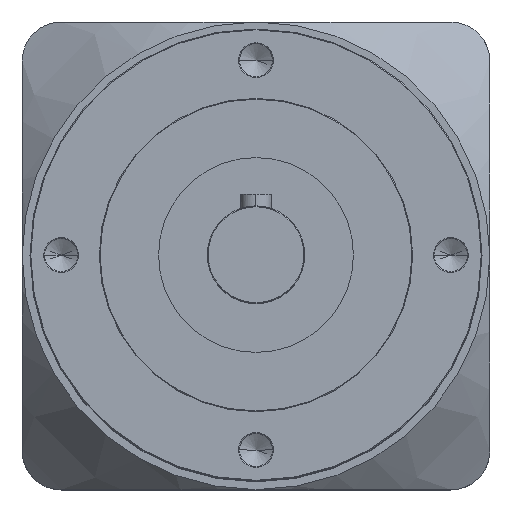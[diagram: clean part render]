
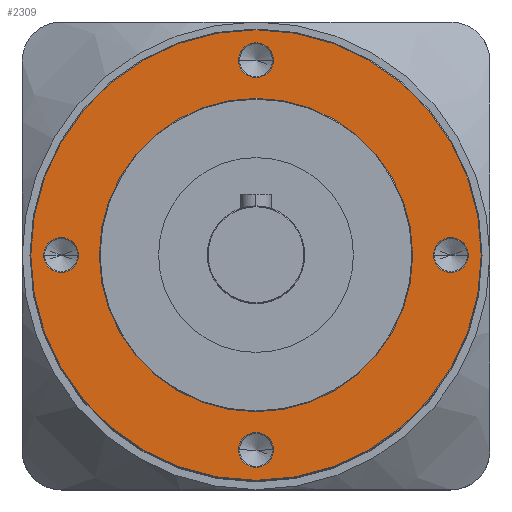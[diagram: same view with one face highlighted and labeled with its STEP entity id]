
A CAD part, top view. The second image highlights one B-rep face of the part: STEP entity #2309.
In plain terms, the highlighted planar face has unit normal (0, 0, 1).
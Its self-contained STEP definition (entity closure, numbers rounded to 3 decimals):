
#37 = VERTEX_POINT ( 'NONE', #2951 ) ;
#71 = AXIS2_PLACEMENT_3D ( 'NONE', #3185, #1694, #202 ) ;
#135 = CARTESIAN_POINT ( 'NONE',  ( 90.126, -22.151, 337.621 ) ) ;
#158 = EDGE_CURVE ( 'NONE', #1888, #1999, #2864, .T. ) ;
#169 = FACE_BOUND ( 'NONE', #2466, .T. ) ;
#202 = DIRECTION ( 'NONE',  ( 1., 0., 0. ) ) ;
#240 = DIRECTION ( 'NONE',  ( 0., 0., -1. ) ) ;
#265 = EDGE_CURVE ( 'NONE', #1846, #3034, #537, .T. ) ;
#355 = CARTESIAN_POINT ( 'NONE',  ( 40.126, -72.151, 337.621 ) ) ;
#383 = DIRECTION ( 'NONE',  ( 1., 0., 0. ) ) ;
#441 = DIRECTION ( 'NONE',  ( 0., 0., -1. ) ) ;
#480 = CIRCLE ( 'NONE', #1873, 40.2 ) ;
#504 = VERTEX_POINT ( 'NONE', #1754 ) ;
#520 = VERTEX_POINT ( 'NONE', #1266 ) ;
#537 = CIRCLE ( 'NONE', #71, 4.45 ) ;
#591 = EDGE_CURVE ( 'NONE', #1152, #1261, #1011, .T. ) ;
#602 = DIRECTION ( 'NONE',  ( 1., 0., 0. ) ) ;
#619 = EDGE_LOOP ( 'NONE', ( #2527, #1376 ) ) ;
#626 = AXIS2_PLACEMENT_3D ( 'NONE', #355, #2092, #602 ) ;
#637 = DIRECTION ( 'NONE',  ( 0., 0., -1. ) ) ;
#644 = AXIS2_PLACEMENT_3D ( 'NONE', #929, #2660, #1174 ) ;
#670 = FACE_BOUND ( 'NONE', #2044, .T. ) ;
#693 = ORIENTED_EDGE ( 'NONE', *, *, #1036, .T. ) ;
#716 = DIRECTION ( 'NONE',  ( 0., 0., -1. ) ) ;
#750 = DIRECTION ( 'NONE',  ( 0., 0., 1. ) ) ;
#780 = VERTEX_POINT ( 'NONE', #1334 ) ;
#787 = ORIENTED_EDGE ( 'NONE', *, *, #834, .T. ) ;
#788 = CARTESIAN_POINT ( 'NONE',  ( -17.674, -22.151, 337.621 ) ) ;
#829 = VERTEX_POINT ( 'NONE', #1647 ) ;
#834 = EDGE_CURVE ( 'NONE', #829, #37, #1544, .T. ) ;
#860 = CARTESIAN_POINT ( 'NONE',  ( 40.126, -22.151, 337.621 ) ) ;
#929 = CARTESIAN_POINT ( 'NONE',  ( 40.126, -72.151, 337.621 ) ) ;
#951 = PLANE ( 'NONE',  #1145 ) ;
#986 = CARTESIAN_POINT ( 'NONE',  ( 90.126, -22.151, 337.621 ) ) ;
#987 = EDGE_LOOP ( 'NONE', ( #1761, #1645 ) ) ;
#1011 = CIRCLE ( 'NONE', #1848, 4.45 ) ;
#1036 = EDGE_CURVE ( 'NONE', #780, #504, #1077, .T. ) ;
#1077 = CIRCLE ( 'NONE', #644, 4.45 ) ;
#1105 = DIRECTION ( 'NONE',  ( 1., 0., 0. ) ) ;
#1132 = ORIENTED_EDGE ( 'NONE', *, *, #1827, .T. ) ;
#1145 = AXIS2_PLACEMENT_3D ( 'NONE', #2678, #1685, #2934 ) ;
#1151 = CARTESIAN_POINT ( 'NONE',  ( -9.874, -22.151, 337.621 ) ) ;
#1152 = VERTEX_POINT ( 'NONE', #1478 ) ;
#1174 = DIRECTION ( 'NONE',  ( 1., 0., 0. ) ) ;
#1197 = CIRCLE ( 'NONE', #2894, 57.8 ) ;
#1238 = DIRECTION ( 'NONE',  ( 1., 0., 0. ) ) ;
#1261 = VERTEX_POINT ( 'NONE', #1692 ) ;
#1266 = CARTESIAN_POINT ( 'NONE',  ( 97.926, -22.151, 337.621 ) ) ;
#1296 = ORIENTED_EDGE ( 'NONE', *, *, #591, .T. ) ;
#1300 = CIRCLE ( 'NONE', #626, 4.45 ) ;
#1334 = CARTESIAN_POINT ( 'NONE',  ( 44.576, -72.151, 337.621 ) ) ;
#1341 = FACE_BOUND ( 'NONE', #619, .T. ) ;
#1347 = EDGE_LOOP ( 'NONE', ( #2501, #1132 ) ) ;
#1376 = ORIENTED_EDGE ( 'NONE', *, *, #158, .T. ) ;
#1406 = DIRECTION ( 'NONE',  ( 1., 0., 0. ) ) ;
#1443 = AXIS2_PLACEMENT_3D ( 'NONE', #2193, #716, #2451 ) ;
#1478 = CARTESIAN_POINT ( 'NONE',  ( 85.676, -22.151, 337.621 ) ) ;
#1498 = FACE_OUTER_BOUND ( 'NONE', #987, .T. ) ;
#1543 = CIRCLE ( 'NONE', #2823, 4.45 ) ;
#1544 = CIRCLE ( 'NONE', #1616, 4.45 ) ;
#1616 = AXIS2_PLACEMENT_3D ( 'NONE', #1151, #2892, #1406 ) ;
#1645 = ORIENTED_EDGE ( 'NONE', *, *, #1884, .T. ) ;
#1647 = CARTESIAN_POINT ( 'NONE',  ( -5.424, -22.151, 337.621 ) ) ;
#1685 = DIRECTION ( 'NONE',  ( 0., 0., 1. ) ) ;
#1686 = EDGE_CURVE ( 'NONE', #1261, #1152, #1543, .T. ) ;
#1692 = CARTESIAN_POINT ( 'NONE',  ( 94.576, -22.151, 337.621 ) ) ;
#1694 = DIRECTION ( 'NONE',  ( 0., 0., -1. ) ) ;
#1709 = EDGE_CURVE ( 'NONE', #37, #829, #2209, .T. ) ;
#1716 = CARTESIAN_POINT ( 'NONE',  ( 44.576, 27.849, 337.621 ) ) ;
#1735 = CARTESIAN_POINT ( 'NONE',  ( -9.874, -22.151, 337.621 ) ) ;
#1737 = CARTESIAN_POINT ( 'NONE',  ( 80.326, -22.151, 337.621 ) ) ;
#1754 = CARTESIAN_POINT ( 'NONE',  ( 35.676, -72.151, 337.621 ) ) ;
#1761 = ORIENTED_EDGE ( 'NONE', *, *, #3054, .T. ) ;
#1817 = CIRCLE ( 'NONE', #1443, 4.45 ) ;
#1827 = EDGE_CURVE ( 'NONE', #3034, #1846, #1817, .T. ) ;
#1846 = VERTEX_POINT ( 'NONE', #1716 ) ;
#1848 = AXIS2_PLACEMENT_3D ( 'NONE', #135, #1875, #383 ) ;
#1873 = AXIS2_PLACEMENT_3D ( 'NONE', #2117, #637, #2380 ) ;
#1875 = DIRECTION ( 'NONE',  ( 0., 0., -1. ) ) ;
#1884 = EDGE_CURVE ( 'NONE', #520, #2844, #3143, .T. ) ;
#1888 = VERTEX_POINT ( 'NONE', #1737 ) ;
#1938 = CARTESIAN_POINT ( 'NONE',  ( 40.126, -22.151, 337.621 ) ) ;
#1977 = AXIS2_PLACEMENT_3D ( 'NONE', #1938, #441, #2181 ) ;
#1978 = ORIENTED_EDGE ( 'NONE', *, *, #1686, .T. ) ;
#1982 = DIRECTION ( 'NONE',  ( 1., 0., 0. ) ) ;
#1999 = VERTEX_POINT ( 'NONE', #2006 ) ;
#2003 = FACE_BOUND ( 'NONE', #2766, .T. ) ;
#2006 = CARTESIAN_POINT ( 'NONE',  ( -0.074, -22.151, 337.621 ) ) ;
#2044 = EDGE_LOOP ( 'NONE', ( #787, #3204 ) ) ;
#2070 = FACE_BOUND ( 'NONE', #1347, .T. ) ;
#2092 = DIRECTION ( 'NONE',  ( 0., 0., -1. ) ) ;
#2096 = AXIS2_PLACEMENT_3D ( 'NONE', #2236, #750, #2485 ) ;
#2108 = EDGE_CURVE ( 'NONE', #1999, #1888, #480, .T. ) ;
#2117 = CARTESIAN_POINT ( 'NONE',  ( 40.126, -22.151, 337.621 ) ) ;
#2144 = ORIENTED_EDGE ( 'NONE', *, *, #2593, .T. ) ;
#2181 = DIRECTION ( 'NONE',  ( 1., 0., 0. ) ) ;
#2193 = CARTESIAN_POINT ( 'NONE',  ( 40.126, 27.849, 337.621 ) ) ;
#2209 = CIRCLE ( 'NONE', #3000, 4.45 ) ;
#2236 = CARTESIAN_POINT ( 'NONE',  ( 40.126, -22.151, 337.621 ) ) ;
#2309 = ADVANCED_FACE ( 'NONE', ( #1498, #1341, #2070, #2003, #169, #670 ), #951, .T. ) ;
#2380 = DIRECTION ( 'NONE',  ( 1., 0., 0. ) ) ;
#2451 = DIRECTION ( 'NONE',  ( 1., 0., 0. ) ) ;
#2466 = EDGE_LOOP ( 'NONE', ( #693, #2144 ) ) ;
#2485 = DIRECTION ( 'NONE',  ( 1., 0., 0. ) ) ;
#2501 = ORIENTED_EDGE ( 'NONE', *, *, #265, .T. ) ;
#2527 = ORIENTED_EDGE ( 'NONE', *, *, #2108, .T. ) ;
#2585 = DIRECTION ( 'NONE',  ( 0., 0., 1. ) ) ;
#2593 = EDGE_CURVE ( 'NONE', #504, #780, #1300, .T. ) ;
#2660 = DIRECTION ( 'NONE',  ( 0., 0., -1. ) ) ;
#2678 = CARTESIAN_POINT ( 'NONE',  ( 31.138, -31.138, 337.621 ) ) ;
#2722 = DIRECTION ( 'NONE',  ( 0., 0., -1. ) ) ;
#2766 = EDGE_LOOP ( 'NONE', ( #1978, #1296 ) ) ;
#2812 = CARTESIAN_POINT ( 'NONE',  ( 35.676, 27.849, 337.621 ) ) ;
#2823 = AXIS2_PLACEMENT_3D ( 'NONE', #986, #2722, #1238 ) ;
#2844 = VERTEX_POINT ( 'NONE', #788 ) ;
#2864 = CIRCLE ( 'NONE', #1977, 40.2 ) ;
#2892 = DIRECTION ( 'NONE',  ( 0., 0., -1. ) ) ;
#2894 = AXIS2_PLACEMENT_3D ( 'NONE', #860, #2585, #1105 ) ;
#2934 = DIRECTION ( 'NONE',  ( 1., 0., 0. ) ) ;
#2951 = CARTESIAN_POINT ( 'NONE',  ( -14.324, -22.151, 337.621 ) ) ;
#3000 = AXIS2_PLACEMENT_3D ( 'NONE', #1735, #240, #1982 ) ;
#3034 = VERTEX_POINT ( 'NONE', #2812 ) ;
#3054 = EDGE_CURVE ( 'NONE', #2844, #520, #1197, .T. ) ;
#3143 = CIRCLE ( 'NONE', #2096, 57.8 ) ;
#3185 = CARTESIAN_POINT ( 'NONE',  ( 40.126, 27.849, 337.621 ) ) ;
#3204 = ORIENTED_EDGE ( 'NONE', *, *, #1709, .T. ) ;
